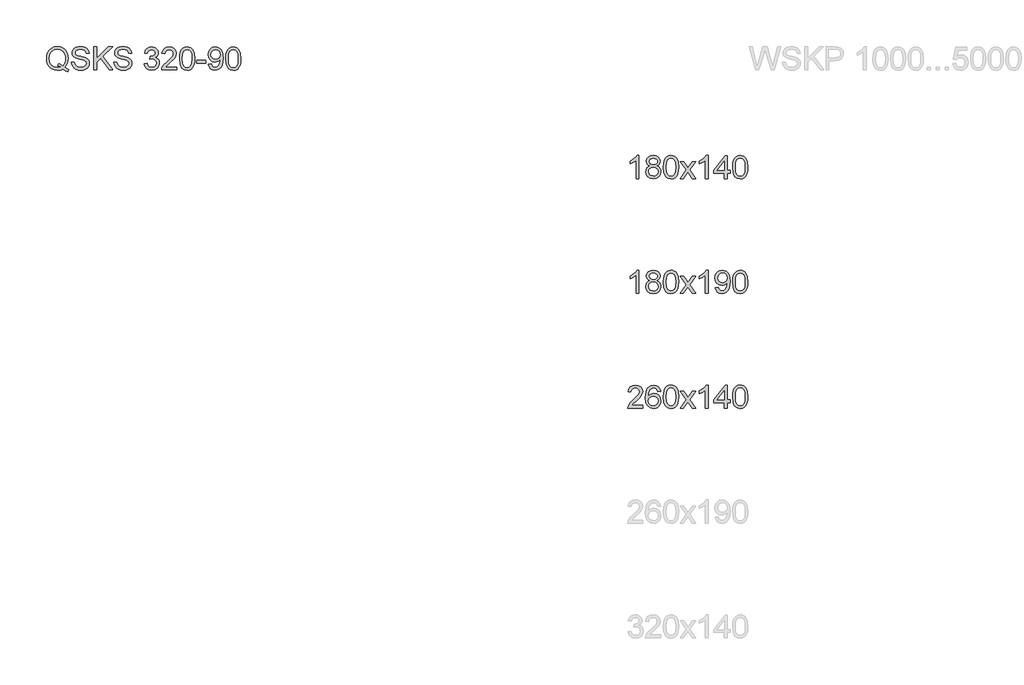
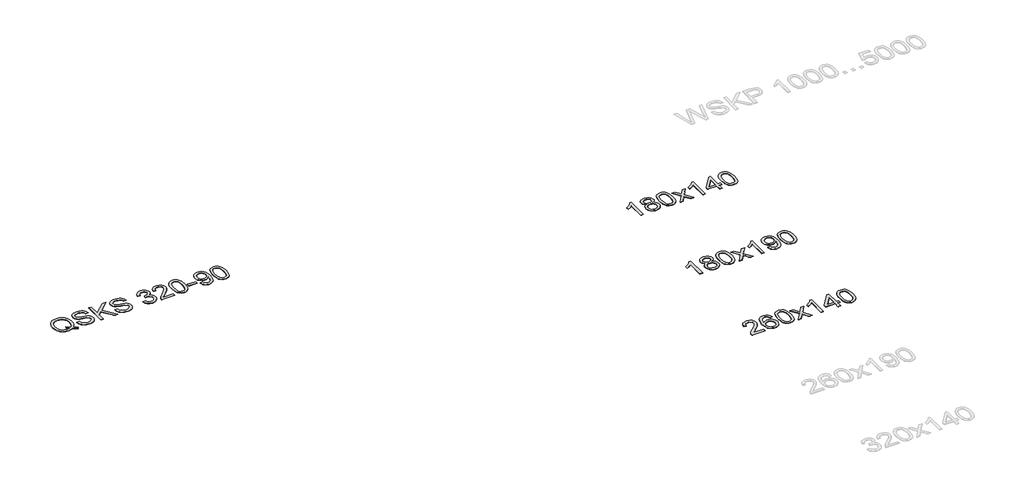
# One storey, part 15 of 17: 4 proxies.
"""IFC4 building model written with IfcOpenShell, lengths in millimetres."""

from ifc_helpers import new_model, si_unit, origin, origin_with_axes, place, context, project, spatial, polyline, outline, extrude, element, save

model = new_model("IFC4")

# Units and contexts
model_context = context("Model", 3, world=origin())
ifc_project = project(units=[si_unit("LENGTHUNIT", "METRE", prefix="MILLI")], contexts=[model_context])

# Site, building, storey
site = spatial("IfcSite", under=ifc_project)
building = spatial("IfcBuilding", under=site)
storey = spatial("IfcBuildingStorey", under=building, Name="Уровень 1", Elevation=0.0)

# Proxies
placement = place(None, origin())
element("IfcBuildingElementProxy", 1, Name="Текст модели 1", ObjectType="Текст модели 1", at=placement, inside=storey, context=model_context, shape_type="SweptSolid", body=[
    extrude(outline(polyline([(23854.9155502, 3515.8415377), (23886.0628925, 3494.8967894), (23879.2938637, 3476.5026897), (23858.5821074, 3486.1044098), (23837.9439275, 3499.9980864), (23814.7060481, 3491.4632242), (23789.1382495, 3488.6182701), (23763.4478235, 3491.8985512), (23740.2344696, 3501.7393946), (23720.7919061, 3517.5215321), (23706.4138515, 3538.6256959), (23697.5295013, 3563.8930576), (23694.5680512, 3592.164789), (23697.5233699, 3620.4610458), (23706.389326, 3646.0962895), (23720.7121984, 3667.5008902), (23740.0382658, 3683.1052182), (23763.1657806, 3692.6333619), (23788.8929948, 3695.8094097), (23814.8225441, 3692.5597855), (23838.0665548, 3682.8109126), (23857.3619655, 3667.212716), (23871.4457145, 3646.4151205), (23880.0541532, 3621.5217722), (23882.9236328, 3593.6363169), (23881.1823247, 3570.4474885), (23875.9584003, 3549.7357322), (23867.2150716, 3531.5255734), (23854.9155502, 3515.8415377)]), holes=[polyline([(23796.054431, 3549.2452229), (23817.1708575, 3541.2621836), (23834.2160566, 3530.16441), (23844.5382122, 3541.8140066), (23851.9111806, 3556.0633025), (23856.3349616, 3572.9122979), (23857.8095552, 3592.3609927), (23855.7248906, 3614.4645692), (23849.4708967, 3633.5883016), (23839.2008576, 3649.2478119), (23825.0680577, 3660.9587221), (23808.0289899, 3668.2611797), (23789.0401476, 3670.6953322), (23761.6697272, 3665.7718448), (23739.4006037, 3651.0013827), (23730.7737709, 3639.9419303), (23724.6117475, 3626.4575223), (23719.6821288, 3592.2138399), (23724.5565652, 3558.7059215), (23730.6496108, 3545.2583017), (23739.1798745, 3534.0149083), (23761.3815529, 3518.8029878), (23788.9910967, 3513.7323476), (23816.0181606, 3518.8826955), (23789.5797079, 3530.0172573), (23796.054431, 3549.2452229)])]), origin_with_axes(), (0.0, 0.0, 1.0), 2.0),
    extrude(outline(polyline([(23911.17697, 3560.821243), (23936.2910475, 3560.821243), (23944.3844514, 3535.68264), (23952.5146435, 3526.7921584), (23964.1519773, 3519.7901378), (23978.3767478, 3515.2467951), (23994.26925, 3513.7323476), (24020.511499, 3518.3186098), (24037.4585962, 3530.9246995), (24043.0258771, 3547.7736949), (24038.8565478, 3563.4454679), (24032.504452, 3569.6442795), (24021.7868232, 3574.8498097), (23985.2193529, 3584.4392671), (23945.8559794, 3596.8246276), (23933.3541229, 3605.2736507), (23924.4942982, 3615.5130329), (23919.2151916, 3627.322045), (23917.4554894, 3640.4799577), (23919.6321245, 3655.1891061), (23926.1620299, 3668.9049732), (23936.8735274, 3680.5300442), (23951.5949385, 3688.9668046), (23969.265537, 3694.0987585), (23988.8245964, 3695.8094097), (24010.0145994, 3694.0190507), (24028.5558519, 3688.6479736), (24043.7861665, 3679.806543), (24055.0433556, 3667.6051234), (24062.1680035, 3652.8040045), (24065.0006949, 3636.1634756), (24039.8866174, 3636.1634756), (24035.2758297, 3651.1485355), (24025.6618469, 3661.9642662), (24010.6399988, 3668.5125657), (23989.8056151, 3670.6953322), (23968.4807221, 3668.5370912), (23953.8512814, 3662.0623681), (23945.3899955, 3652.5342244), (23942.5695669, 3641.2157217), (23944.5683924, 3631.5649507), (23950.5648689, 3623.8026406), (23964.7405885, 3616.8619336), (23991.5714487, 3609.7740738), (24036.0115937, 3597.1679841), (24050.3283347, 3588.0567734), (24060.3163308, 3576.811847), (24066.1840487, 3563.5558325), (24068.1399546, 3548.411357), (24065.8897431, 3532.9296564), (24059.1391085, 3518.3676607), (24048.1639623, 3505.8351474), (24033.240216, 3496.4418938), (24015.293706, 3490.574176), (23995.2502686, 3488.6182701), (23970.6450945, 3490.7274602), (23950.3931907, 3497.0550305), (23934.2615652, 3507.6255065), (23922.0172261, 3522.4634136), (23914.1568142, 3540.5386823), (23911.17697, 3560.821243)])), origin_with_axes(), (0.0, 0.0, 1.0), 2.0),
    extrude(outline(polyline([(24105.8110709, 3491.7575298), (24105.8110709, 3692.6701501), (24130.9251484, 3692.6701501), (24130.9251484, 3594.32303), (24233.9321071, 3692.6701501), (24269.0525749, 3692.6701501), (24182.5757806, 3610.0683794), (24272.1918346, 3491.7575298), (24241.4859507, 3491.7575298), (24164.770292, 3593.0967567), (24130.9251484, 3560.821243), (24130.9251484, 3491.7575298), (24105.8110709, 3491.7575298)])), origin_with_axes(), (0.0, 0.0, 1.0), 2.0),
    extrude(outline(polyline([(24281.6096137, 3560.821243), (24306.7236912, 3560.821243), (24314.8170951, 3535.68264), (24322.9472872, 3526.7921584), (24334.584621, 3519.7901378), (24348.8093915, 3515.2467951), (24364.7018936, 3513.7323476), (24390.9441426, 3518.3186098), (24407.8912399, 3530.9246995), (24413.4585207, 3547.7736949), (24409.2891915, 3563.4454679), (24402.9370957, 3569.6442795), (24392.2194669, 3574.8498097), (24355.6519966, 3584.4392671), (24316.2886231, 3596.8246276), (24303.7867666, 3605.2736507), (24294.9269419, 3615.5130329), (24289.6478353, 3627.322045), (24287.8881331, 3640.4799577), (24290.0647682, 3655.1891061), (24296.5946736, 3668.9049732), (24307.306171, 3680.5300442), (24322.0275822, 3688.9668046), (24339.6981807, 3694.0987585), (24359.2572401, 3695.8094097), (24380.447243, 3694.0190507), (24398.9884956, 3688.6479736), (24414.2188102, 3679.806543), (24425.4759992, 3667.6051234), (24432.6006472, 3652.8040045), (24435.4333386, 3636.1634756), (24410.319261, 3636.1634756), (24405.7084734, 3651.1485355), (24396.0944906, 3661.9642662), (24381.0726424, 3668.5125657), (24360.2382588, 3670.6953322), (24338.9133658, 3668.5370912), (24324.2839251, 3662.0623681), (24315.8226392, 3652.5342244), (24313.0022106, 3641.2157217), (24315.0010361, 3631.5649507), (24320.9975126, 3623.8026406), (24335.1732322, 3616.8619336), (24362.0040923, 3609.7740738), (24406.4442374, 3597.1679841), (24420.7609783, 3588.0567734), (24430.7489745, 3576.811847), (24436.6166923, 3563.5558325), (24438.5725983, 3548.411357), (24436.3223867, 3532.9296564), (24429.5717521, 3518.3676607), (24418.5966059, 3505.8351474), (24403.6728597, 3496.4418938), (24385.7263497, 3490.574176), (24365.6829123, 3488.6182701), (24341.0777382, 3490.7274602), (24320.8258344, 3497.0550305), (24304.6942089, 3507.6255065), (24292.4498698, 3522.4634136), (24284.5894578, 3540.5386823), (24281.6096137, 3560.821243)])), origin_with_axes(), (0.0, 0.0, 1.0), 2.0),
    extrude(outline(polyline([(24545.3074278, 3545.1249445), (24570.4215053, 3548.2642042), (24576.0439685, 3532.4820666), (24584.2783938, 3521.8257515), (24595.5294515, 3515.7556986), (24610.2018118, 3513.7323476), (24627.4186891, 3516.515988), (24640.7114919, 3524.8669093), (24649.209566, 3537.3258462), (24652.0422573, 3552.4335335), (24649.2340914, 3566.7747999), (24640.8095938, 3578.4060023), (24628.0563513, 3586.1131301), (24612.2619509, 3588.6821727), (24594.6526661, 3585.9353205), (24597.4485693, 3611.0493981), (24601.4707457, 3610.7550925), (24616.5171193, 3612.5577142), (24629.9693376, 3617.9655796), (24639.4606931, 3627.1135785), (24642.6244783, 3640.1366011), (24640.3313472, 3650.9829886), (24633.4519539, 3659.7814997), (24622.9550543, 3665.6124293), (24609.8094043, 3667.5560725), (24596.6392289, 3665.5940352), (24585.8725491, 3659.7079233), (24578.0121372, 3649.8977367), (24573.560765, 3636.1634756), (24548.4466875, 3639.3027353), (24555.8411156, 3661.8539016), (24568.9990283, 3678.6906342), (24587.0007206, 3689.1752711), (24608.9264875, 3692.6701501), (24624.7147565, 3690.947236), (24639.2154384, 3685.778494), (24651.4413834, 3677.6237764), (24660.4054414, 3666.9429359), (24665.9052772, 3654.6372831), (24667.7385558, 3641.6081291), (24665.9972477, 3629.4680233), (24660.7733234, 3618.4560889), (24652.1403592, 3609.075098), (24640.1719316, 3601.8278227), (24655.8927556, 3595.4757269), (24667.5423521, 3584.6599963), (24674.7528392, 3569.9692419), (24677.1563349, 3551.9920751), (24672.3493435, 3527.5156597), (24657.9283693, 3507.0614208), (24636.1620179, 3493.2290577), (24609.318895, 3488.6182701), (24585.0386833, 3492.5546074), (24565.2711574, 3504.3636195), (24551.5246335, 3522.4266254), (24545.3074278, 3545.1249445)])), origin_with_axes(), (0.0, 0.0, 1.0), 2.0),
    extrude(outline(polyline([(24827.8408001, 3516.8716073), (24827.8408001, 3491.7575298), (24695.991893, 3491.7575298), (24698.6896943, 3509.072509), (24713.9445344, 3535.7316909), (24745.3861823, 3564.8434195), (24788.7472068, 3606.683865), (24796.8773988, 3621.1048393), (24799.5874629, 3635.133406), (24797.030683, 3647.7088389), (24789.3603434, 3658.1628189), (24777.5697255, 3665.2077591), (24762.6521106, 3667.5560725), (24746.9864689, 3665.2629414), (24734.8157063, 3658.3835481), (24726.9614257, 3647.4574528), (24724.2452303, 3633.0242159), (24699.1311527, 3636.1634756), (24705.2195997, 3660.45595), (24718.3836438, 3678.2001249), (24737.9365719, 3689.0526438), (24763.1916708, 3692.6701501), (24788.6307108, 3688.6479736), (24808.1468506, 3676.5814441), (24820.562868, 3658.5552264), (24824.7015404, 3636.6539849), (24820.2379055, 3612.8397571), (24805.3999984, 3588.2161889), (24769.4211393, 3553.8069596), (24740.5301399, 3529.6493753), (24729.1993745, 3516.8716073), (24827.8408001, 3516.8716073)])), origin_with_axes(), (0.0, 0.0, 1.0), 2.0),
    extrude(outline(polyline([(24852.9548776, 3590.5951591), (24854.800419, 3622.7541769), (24860.337043, 3648.4016833), (24869.5095674, 3667.9300859), (24882.2628099, 3681.7317921), (24898.688741, 3689.9355606), (24918.8793312, 3692.6701501), (24934.3549004, 3691.0514693), (24948.2117889, 3686.1954269), (24959.8000718, 3678.2920954), (24968.4698241, 3667.531547), (24980.242048, 3637.8066818), (24984.8037847, 3590.5951591), (24982.9766375, 3558.6200824), (24977.4951957, 3533.0338896), (24968.3778536, 3513.4870929), (24955.6430052, 3499.6302044), (24939.1802859, 3491.3712537), (24918.8793312, 3488.6182701), (24892.784235, 3493.400736), (24872.9676582, 3507.7481338), (24864.2120667, 3522.8772809), (24857.9580728, 3541.7281674), (24852.9548776, 3590.5951591)]), holes=[polyline([(24878.0689552, 3590.6442101), (24881.0120111, 3551.1398151), (24889.841179, 3528.2759491), (24902.986829, 3517.368248), (24918.8793312, 3513.7323476), (24934.7718334, 3517.3805107), (24947.9174833, 3528.3250001), (24956.7466512, 3551.2011288), (24959.6897072, 3590.6442101), (24956.8447531, 3629.2595568), (24948.3098908, 3652.3012324), (24935.1887663, 3663.7423625), (24918.5850256, 3667.5560725), (24902.8642017, 3664.1960836), (24890.2335865, 3654.116117), (24881.110113, 3629.6397015), (24878.0689552, 3590.6442101)])]), origin_with_axes(), (0.0, 0.0, 1.0), 2.0),
    extrude(outline(polyline([(25000.5000832, 3551.4034639), (25000.5000832, 3576.5175414), (25078.9815755, 3576.5175414), (25078.9815755, 3551.4034639), (25000.5000832, 3551.4034639)])), origin_with_axes(), (0.0, 0.0, 1.0), 2.0),
    extrude(outline(polyline([(25104.095653, 3541.9856848), (25129.2097306, 3545.1249445), (25133.5016872, 3530.8695172), (25140.4914451, 3521.1635639), (25150.007326, 3515.5901517), (25161.8776517, 3513.7323476), (25182.2092633, 3518.5148135), (25195.9925754, 3531.2925815), (25204.2086066, 3553.1202465), (25207.8383757, 3582.2565006), (25207.6912229, 3587.1615938), (25198.9908137, 3576.5420669), (25187.6048659, 3568.129832), (25174.3549827, 3562.6483902), (25160.0627672, 3560.821243), (25137.162113, 3565.2848779), (25118.0996943, 3578.6757825), (25105.2422186, 3599.3630133), (25100.9563933, 3625.7156269), (25105.450685, 3652.9388946), (25118.9335602, 3674.2760503), (25139.185464, 3688.0716251), (25163.9868418, 3692.6701501), (25182.7181668, 3690.0459252), (25199.7694972, 3682.1732505), (25214.0310559, 3669.4445334), (25224.3930654, 3652.2521815), (25230.7022417, 3628.4870046), (25232.8053004, 3596.0398127), (25230.708373, 3561.6367147), (25224.4175909, 3535.0449779), (25213.9881363, 3515.0628541), (25199.4751916, 3500.4885958), (25181.5041562, 3491.5858515), (25160.7004293, 3488.6182701), (25139.2283836, 3492.1192804), (25122.0973453, 3502.6223113), (25110.116655, 3519.4651754), (25104.095653, 3541.9856848)]), holes=[polyline([(25207.6912229, 3626.3042381), (25204.9811588, 3643.3249118), (25196.8509667, 3656.4215108), (25184.2326143, 3664.7724321), (25168.0580692, 3667.5560725), (25151.2826503, 3664.5578343), (25137.8426947, 3655.5631195), (25129.0135268, 3641.7982015), (25126.0704709, 3624.4893536), (25128.8541113, 3608.9708648), (25137.2050326, 3596.6529493), (25150.3138943, 3588.6147277), (25167.3713562, 3585.9353205), (25183.4171425, 3588.6147277), (25196.3359319, 3596.6529493), (25204.8524001, 3609.4245859), (25207.6912229, 3626.3042381)])]), origin_with_axes(), (0.0, 0.0, 1.0), 2.0),
    extrude(outline(polyline([(25254.7801182, 3590.5951591), (25256.6256596, 3622.7541769), (25262.1622836, 3648.4016833), (25271.334808, 3667.9300859), (25284.0880505, 3681.7317921), (25300.5139816, 3689.9355606), (25320.7045718, 3692.6701501), (25336.180141, 3691.0514693), (25350.0370295, 3686.1954269), (25361.6253124, 3678.2920954), (25370.2950647, 3667.531547), (25382.0672886, 3637.8066818), (25386.6290253, 3590.5951591), (25384.8018781, 3558.6200824), (25379.3204363, 3533.0338896), (25370.2030942, 3513.4870929), (25357.4682458, 3499.6302044), (25341.0055265, 3491.3712537), (25320.7045718, 3488.6182701), (25294.6094756, 3493.400736), (25274.7928988, 3507.7481338), (25266.0373073, 3522.8772809), (25259.7833134, 3541.7281674), (25254.7801182, 3590.5951591)]), holes=[polyline([(25279.8941958, 3590.6442101), (25282.8372517, 3551.1398151), (25291.6664196, 3528.2759491), (25304.8120696, 3517.368248), (25320.7045718, 3513.7323476), (25336.597074, 3517.3805107), (25349.7427239, 3528.3250001), (25358.5718918, 3551.2011288), (25361.5149478, 3590.6442101), (25358.6699937, 3629.2595568), (25350.1351314, 3652.3012324), (25337.0140069, 3663.7423625), (25320.4102662, 3667.5560725), (25304.6894423, 3664.1960836), (25292.0588271, 3654.116117), (25282.9353536, 3629.6397015), (25279.8941958, 3590.6442101)])]), origin_with_axes(), (0.0, 0.0, 1.0), 2.0),
])
element("IfcBuildingElementProxy", 2, Name="Текст модели 1", ObjectType="Текст модели 1", at=placement, inside=storey, context=model_context, shape_type="SweptSolid", body=[
    extrude(outline(polyline([(28852.7463706, 2546.7575298), (28827.632293, 2546.7575298), (28827.632293, 2703.3281069), (28803.8425907, 2686.3810097), (28777.4041379, 2673.7013436), (28777.4041379, 2697.441995), (28814.2168629, 2720.9373917), (28827.6874753, 2734.5122374), (28836.5595628, 2747.6701501), (28852.7463706, 2747.6701501), (28852.7463706, 2546.7575298)])), origin_with_axes(), (0.0, 0.0, 1.0), 2.0),
    extrude(outline(polyline([(28948.9843005, 2657.4164339), (28935.5382136, 2664.0383098), (28926.1020404, 2673.0146305), (28920.5286282, 2684.161455), (28918.6708241, 2697.2948422), (28922.717526, 2716.927478), (28934.8576319, 2733.151074), (28953.7299782, 2744.040381), (28977.9734017, 2747.6701501), (29002.363978, 2743.9545419), (29021.481579, 2732.8077174), (29033.842414, 2716.3266041), (29037.9626924, 2696.6081291), (29036.1294138, 2683.8978062), (29030.629578, 2672.9410541), (29021.4018712, 2664.0199157), (29008.38498, 2657.4164339), (29023.8421551, 2649.4517887), (29035.0932128, 2637.7224844), (29041.954212, 2622.7926068), (29044.2412118, 2605.2262415), (29039.7040005, 2581.21581), (29026.0923667, 2561.3747077), (29005.074042, 2548.0573795), (28978.3167582, 2543.6182701), (28951.5594745, 2548.0757736), (28930.5411498, 2561.4482841), (28916.929516, 2581.4794587), (28912.3923047, 2605.9129546), (28914.7712749, 2624.1599015), (28921.9081856, 2639.1694869), (28933.4351548, 2650.426676), (28948.9843005, 2657.4164339)]), holes=[polyline([(28943.7849016, 2696.5590782), (28946.0105877, 2685.5961947), (28952.6876459, 2676.8406032), (28963.6198725, 2671.1016441), (28978.6110638, 2669.1886577), (28993.2527672, 2671.0893814), (29004.019447, 2676.7915523), (29010.6413229, 2685.2528382), (29012.8486149, 2695.4309067), (29010.5677465, 2705.9952514), (29003.7251414, 2714.7324487), (28992.8113088, 2720.6001666), (28978.3167582, 2722.5560725), (28963.7302371, 2720.6430861), (28952.8347987, 2714.904127), (28946.0473759, 2706.4918921), (28943.7849016, 2696.5590782)]), polyline([(28937.5063822, 2606.7958714), (28941.700237, 2587.8867368), (28947.5066411, 2579.7749388), (28956.5381441, 2573.7355427), (28978.512962, 2568.7323476), (28995.607212, 2571.3627039), (29008.4340309, 2579.2537727), (29016.4538584, 2591.2038061), (29019.1271342, 2606.0110564), (29016.3680193, 2621.0696928), (29008.0906744, 2633.283375), (28994.9695499, 2641.3767789), (28977.6790961, 2644.0745802), (28960.8239694, 2641.4135671), (28948.1259092, 2633.4305278), (28940.161264, 2621.4498375), (28937.5063822, 2606.7958714)])]), origin_with_axes(), (0.0, 0.0, 1.0), 2.0),
    extrude(outline(polyline([(29066.2160296, 2645.5951591), (29068.061571, 2677.7541769), (29073.598195, 2703.4016833), (29082.7707194, 2722.9300859), (29095.5239619, 2736.7317921), (29111.949893, 2744.9355606), (29132.1404832, 2747.6701501), (29147.6160524, 2746.0514693), (29161.4729409, 2741.1954269), (29173.0612238, 2733.2920954), (29181.7309761, 2722.531547), (29193.5032, 2692.8066818), (29198.0649367, 2645.5951591), (29196.2377894, 2613.6200824), (29190.7563477, 2588.0338896), (29181.6390056, 2568.4870929), (29168.9041572, 2554.6302044), (29152.4414379, 2546.3712537), (29132.1404832, 2543.6182701), (29106.045387, 2548.400736), (29086.2288102, 2562.7481338), (29077.4732187, 2577.8772809), (29071.2192248, 2596.7281674), (29066.2160296, 2645.5951591)]), holes=[polyline([(29091.3301072, 2645.6442101), (29094.2731631, 2606.1398151), (29103.102331, 2583.2759491), (29116.247981, 2572.368248), (29132.1404832, 2568.7323476), (29148.0329853, 2572.3805107), (29161.1786353, 2583.3250001), (29170.0078032, 2606.2011288), (29172.9508592, 2645.6442101), (29170.1059051, 2684.2595568), (29161.5710428, 2707.3012324), (29148.4499183, 2718.7423625), (29131.8461776, 2722.5560725), (29116.1253536, 2719.1960836), (29103.4947385, 2709.116117), (29094.371265, 2684.6397015), (29091.3301072, 2645.6442101)])]), origin_with_axes(), (0.0, 0.0, 1.0), 2.0),
    extrude(outline(polyline([(29210.6219755, 2546.7575298), (29264.2836958, 2620.92254), (29213.7612352, 2694.3027353), (29243.9766097, 2694.3027353), (29268.3549232, 2658.9860637), (29279.7347396, 2642.3087466), (29289.5939771, 2655.9449059), (29317.356805, 2694.3027353), (29347.5721795, 2694.3027353), (29294.4990704, 2620.92254), (29345.6101422, 2546.7575298), (29315.3947677, 2546.7575298), (29284.6398329, 2591.3448276), (29278.9989756, 2599.4872824), (29240.83735, 2546.7575298), (29210.6219755, 2546.7575298)])), origin_with_axes(), (0.0, 0.0, 1.0), 2.0),
    extrude(outline(polyline([(29455.4842314, 2546.7575298), (29430.3701539, 2546.7575298), (29430.3701539, 2703.3281069), (29406.5804516, 2686.3810097), (29380.1419988, 2673.7013436), (29380.1419988, 2697.441995), (29416.9547238, 2720.9373917), (29430.4253362, 2734.5122374), (29439.2974237, 2747.6701501), (29455.4842314, 2747.6701501), (29455.4842314, 2546.7575298)])), origin_with_axes(), (0.0, 0.0, 1.0), 2.0),
    extrude(outline(polyline([(29596.7509176, 2546.7575298), (29596.7509176, 2593.8464251), (29505.7123865, 2593.8464251), (29505.7123865, 2618.9605027), (29603.029437, 2744.5308904), (29621.8649951, 2744.5308904), (29621.8649951, 2618.9605027), (29646.9790727, 2618.9605027), (29646.9790727, 2593.8464251), (29621.8649951, 2593.8464251), (29621.8649951, 2546.7575298), (29596.7509176, 2546.7575298)]), holes=[polyline([(29596.7509176, 2618.9605027), (29596.7509176, 2696.5590782), (29536.6144741, 2618.9605027), (29596.7509176, 2618.9605027)])]), origin_with_axes(), (0.0, 0.0, 1.0), 2.0),
    extrude(outline(polyline([(29668.9538905, 2645.5951591), (29670.7994319, 2677.7541769), (29676.3360559, 2703.4016833), (29685.5085803, 2722.9300859), (29698.2618228, 2736.7317921), (29714.6877539, 2744.9355606), (29734.8783441, 2747.6701501), (29750.3539133, 2746.0514693), (29764.2108018, 2741.1954269), (29775.7990847, 2733.2920954), (29784.468837, 2722.531547), (29796.2410608, 2692.8066818), (29800.8027976, 2645.5951591), (29798.9756503, 2613.6200824), (29793.4942086, 2588.0338896), (29784.3768665, 2568.4870929), (29771.6420181, 2554.6302044), (29755.1792988, 2546.3712537), (29734.8783441, 2543.6182701), (29708.7832479, 2548.400736), (29688.9666711, 2562.7481338), (29680.2110796, 2577.8772809), (29673.9570857, 2596.7281674), (29668.9538905, 2645.5951591)]), holes=[polyline([(29694.0679681, 2645.6442101), (29697.011024, 2606.1398151), (29705.8401919, 2583.2759491), (29718.9858419, 2572.368248), (29734.8783441, 2568.7323476), (29750.7708462, 2572.3805107), (29763.9164962, 2583.3250001), (29772.7456641, 2606.2011288), (29775.6887201, 2645.6442101), (29772.843766, 2684.2595568), (29764.3089037, 2707.3012324), (29751.1877792, 2718.7423625), (29734.5840385, 2722.5560725), (29718.8632145, 2719.1960836), (29706.2325994, 2709.116117), (29697.1091259, 2684.6397015), (29694.0679681, 2645.6442101)])]), origin_with_axes(), (0.0, 0.0, 1.0), 2.0),
])
element("IfcBuildingElementProxy", 3, Name="Текст модели 1", ObjectType="Текст модели 1", at=placement, inside=storey, context=model_context, shape_type="SweptSolid", body=[
    extrude(outline(polyline([(28852.7463706, 1546.7575298), (28827.632293, 1546.7575298), (28827.632293, 1703.3281069), (28803.8425907, 1686.3810097), (28777.4041379, 1673.7013436), (28777.4041379, 1697.441995), (28814.2168629, 1720.9373917), (28827.6874753, 1734.5122374), (28836.5595628, 1747.6701501), (28852.7463706, 1747.6701501), (28852.7463706, 1546.7575298)])), origin_with_axes(), (0.0, 0.0, 1.0), 2.0),
    extrude(outline(polyline([(28948.9843005, 1657.4164339), (28935.5382136, 1664.0383098), (28926.1020404, 1673.0146305), (28920.5286282, 1684.161455), (28918.6708241, 1697.2948422), (28922.717526, 1716.927478), (28934.8576319, 1733.151074), (28953.7299782, 1744.040381), (28977.9734017, 1747.6701501), (29002.363978, 1743.9545419), (29021.481579, 1732.8077174), (29033.842414, 1716.3266041), (29037.9626924, 1696.6081291), (29036.1294138, 1683.8978062), (29030.629578, 1672.9410541), (29021.4018712, 1664.0199157), (29008.38498, 1657.4164339), (29023.8421551, 1649.4517887), (29035.0932128, 1637.7224844), (29041.954212, 1622.7926068), (29044.2412118, 1605.2262415), (29039.7040005, 1581.21581), (29026.0923667, 1561.3747077), (29005.074042, 1548.0573795), (28978.3167582, 1543.6182701), (28951.5594745, 1548.0757736), (28930.5411498, 1561.4482841), (28916.929516, 1581.4794587), (28912.3923047, 1605.9129546), (28914.7712749, 1624.1599015), (28921.9081856, 1639.1694869), (28933.4351548, 1650.426676), (28948.9843005, 1657.4164339)]), holes=[polyline([(28943.7849016, 1696.5590782), (28946.0105877, 1685.5961947), (28952.6876459, 1676.8406032), (28963.6198725, 1671.1016441), (28978.6110638, 1669.1886577), (28993.2527672, 1671.0893814), (29004.019447, 1676.7915523), (29010.6413229, 1685.2528382), (29012.8486149, 1695.4309067), (29010.5677465, 1705.9952514), (29003.7251414, 1714.7324487), (28992.8113088, 1720.6001666), (28978.3167582, 1722.5560725), (28963.7302371, 1720.6430861), (28952.8347987, 1714.904127), (28946.0473759, 1706.4918921), (28943.7849016, 1696.5590782)]), polyline([(28937.5063822, 1606.7958714), (28941.700237, 1587.8867368), (28947.5066411, 1579.7749388), (28956.5381441, 1573.7355427), (28978.512962, 1568.7323476), (28995.607212, 1571.3627039), (29008.4340309, 1579.2537727), (29016.4538584, 1591.2038061), (29019.1271342, 1606.0110564), (29016.3680193, 1621.0696928), (29008.0906744, 1633.283375), (28994.9695499, 1641.3767789), (28977.6790961, 1644.0745802), (28960.8239694, 1641.4135671), (28948.1259092, 1633.4305278), (28940.161264, 1621.4498375), (28937.5063822, 1606.7958714)])]), origin_with_axes(), (0.0, 0.0, 1.0), 2.0),
    extrude(outline(polyline([(29066.2160296, 1645.5951591), (29068.061571, 1677.7541769), (29073.598195, 1703.4016833), (29082.7707194, 1722.9300859), (29095.5239619, 1736.7317921), (29111.949893, 1744.9355606), (29132.1404832, 1747.6701501), (29147.6160524, 1746.0514693), (29161.4729409, 1741.1954269), (29173.0612238, 1733.2920954), (29181.7309761, 1722.531547), (29193.5032, 1692.8066818), (29198.0649367, 1645.5951591), (29196.2377894, 1613.6200824), (29190.7563477, 1588.0338896), (29181.6390056, 1568.4870929), (29168.9041572, 1554.6302044), (29152.4414379, 1546.3712537), (29132.1404832, 1543.6182701), (29106.045387, 1548.400736), (29086.2288102, 1562.7481338), (29077.4732187, 1577.8772809), (29071.2192248, 1596.7281674), (29066.2160296, 1645.5951591)]), holes=[polyline([(29091.3301072, 1645.6442101), (29094.2731631, 1606.1398151), (29103.102331, 1583.2759491), (29116.247981, 1572.368248), (29132.1404832, 1568.7323476), (29148.0329853, 1572.3805107), (29161.1786353, 1583.3250001), (29170.0078032, 1606.2011288), (29172.9508592, 1645.6442101), (29170.1059051, 1684.2595568), (29161.5710428, 1707.3012324), (29148.4499183, 1718.7423625), (29131.8461776, 1722.5560725), (29116.1253536, 1719.1960836), (29103.4947385, 1709.116117), (29094.371265, 1684.6397015), (29091.3301072, 1645.6442101)])]), origin_with_axes(), (0.0, 0.0, 1.0), 2.0),
    extrude(outline(polyline([(29210.6219755, 1546.7575298), (29264.2836958, 1620.92254), (29213.7612352, 1694.3027353), (29243.9766097, 1694.3027353), (29268.3549232, 1658.9860637), (29279.7347396, 1642.3087466), (29289.5939771, 1655.9449059), (29317.356805, 1694.3027353), (29347.5721795, 1694.3027353), (29294.4990704, 1620.92254), (29345.6101422, 1546.7575298), (29315.3947677, 1546.7575298), (29284.6398329, 1591.3448276), (29278.9989756, 1599.4872824), (29240.83735, 1546.7575298), (29210.6219755, 1546.7575298)])), origin_with_axes(), (0.0, 0.0, 1.0), 2.0),
    extrude(outline(polyline([(29455.4842314, 1546.7575298), (29430.3701539, 1546.7575298), (29430.3701539, 1703.3281069), (29406.5804516, 1686.3810097), (29380.1419988, 1673.7013436), (29380.1419988, 1697.441995), (29416.9547238, 1720.9373917), (29430.4253362, 1734.5122374), (29439.2974237, 1747.6701501), (29455.4842314, 1747.6701501), (29455.4842314, 1546.7575298)])), origin_with_axes(), (0.0, 0.0, 1.0), 2.0),
    extrude(outline(polyline([(29518.2694253, 1596.9856848), (29543.3835028, 1600.1249445), (29547.6754594, 1585.8695172), (29554.6652173, 1576.1635639), (29564.1810983, 1570.5901517), (29576.051424, 1568.7323476), (29596.3830356, 1573.5148135), (29610.1663477, 1586.2925815), (29618.3823789, 1608.1202465), (29622.0121479, 1637.2565006), (29621.8649951, 1642.1615938), (29613.1645859, 1631.5420669), (29601.7786382, 1623.129832), (29588.528755, 1617.6483902), (29574.2365395, 1615.821243), (29551.3358853, 1620.2848779), (29532.2734666, 1633.6757825), (29519.4159908, 1654.3630133), (29515.1301656, 1680.7156269), (29519.6244573, 1707.9388946), (29533.1073324, 1729.2760503), (29553.3592363, 1743.0716251), (29578.1606141, 1747.6701501), (29596.891939, 1745.0459252), (29613.9432695, 1737.1732505), (29628.2048282, 1724.4445334), (29638.5668377, 1707.2521815), (29644.8760139, 1683.4870046), (29646.9790727, 1651.0398127), (29644.8821453, 1616.6367147), (29638.5913632, 1590.0449779), (29628.1619086, 1570.0628541), (29613.6489639, 1555.4885958), (29595.6779284, 1546.5858515), (29574.8742016, 1543.6182701), (29553.4021558, 1547.1192804), (29536.2711176, 1557.6223113), (29524.2904273, 1574.4651754), (29518.2694253, 1596.9856848)]), holes=[polyline([(29621.8649951, 1681.3042381), (29619.1549311, 1698.3249118), (29611.024739, 1711.4215108), (29598.4063866, 1719.7724321), (29582.2318415, 1722.5560725), (29565.4564225, 1719.5578343), (29552.016467, 1710.5631195), (29543.1872991, 1696.7982015), (29540.2442431, 1679.4893536), (29543.0278836, 1663.9708648), (29551.3788049, 1651.6529493), (29564.4876666, 1643.6147277), (29581.5451285, 1640.9353205), (29597.5909148, 1643.6147277), (29610.5097042, 1651.6529493), (29619.0261724, 1664.4245859), (29621.8649951, 1681.3042381)])]), origin_with_axes(), (0.0, 0.0, 1.0), 2.0),
    extrude(outline(polyline([(29668.9538905, 1645.5951591), (29670.7994319, 1677.7541769), (29676.3360559, 1703.4016833), (29685.5085803, 1722.9300859), (29698.2618228, 1736.7317921), (29714.6877539, 1744.9355606), (29734.8783441, 1747.6701501), (29750.3539133, 1746.0514693), (29764.2108018, 1741.1954269), (29775.7990847, 1733.2920954), (29784.468837, 1722.531547), (29796.2410608, 1692.8066818), (29800.8027976, 1645.5951591), (29798.9756503, 1613.6200824), (29793.4942086, 1588.0338896), (29784.3768665, 1568.4870929), (29771.6420181, 1554.6302044), (29755.1792988, 1546.3712537), (29734.8783441, 1543.6182701), (29708.7832479, 1548.400736), (29688.9666711, 1562.7481338), (29680.2110796, 1577.8772809), (29673.9570857, 1596.7281674), (29668.9538905, 1645.5951591)]), holes=[polyline([(29694.0679681, 1645.6442101), (29697.011024, 1606.1398151), (29705.8401919, 1583.2759491), (29718.9858419, 1572.368248), (29734.8783441, 1568.7323476), (29750.7708462, 1572.3805107), (29763.9164962, 1583.3250001), (29772.7456641, 1606.2011288), (29775.6887201, 1645.6442101), (29772.843766, 1684.2595568), (29764.3089037, 1707.3012324), (29751.1877792, 1718.7423625), (29734.5840385, 1722.5560725), (29718.8632145, 1719.1960836), (29706.2325994, 1709.116117), (29697.1091259, 1684.6397015), (29694.0679681, 1645.6442101)])]), origin_with_axes(), (0.0, 0.0, 1.0), 2.0),
])
element("IfcBuildingElementProxy", 4, Name="Текст модели 1", ObjectType="Текст модели 1", at=placement, inside=storey, context=model_context, shape_type="SweptSolid", body=[
    extrude(outline(polyline([(28887.2782272, 571.8716073), (28887.2782272, 546.7575298), (28755.4293201, 546.7575298), (28758.1271214, 564.072509), (28773.3819615, 590.7316909), (28804.8236093, 619.8434195), (28848.1846338, 661.683865), (28856.3148259, 676.1048393), (28859.0248899, 690.133406), (28856.4681101, 702.7088389), (28848.7977705, 713.1628189), (28837.0071525, 720.2077591), (28822.0895376, 722.5560725), (28806.423896, 720.2629414), (28794.2531333, 713.3835481), (28786.3988527, 702.4574528), (28783.6826573, 688.0242159), (28758.5685798, 691.1634756), (28764.6570268, 715.45595), (28777.8210709, 733.2001249), (28797.3739989, 744.0526438), (28822.6290979, 747.6701501), (28848.0681378, 743.6479736), (28867.5842777, 731.5814441), (28880.000295, 713.5552264), (28884.1389675, 691.6539849), (28879.6753326, 667.8397571), (28864.8374255, 643.2161889), (28828.8585663, 608.8069596), (28799.967567, 584.6493753), (28788.6368015, 571.8716073), (28887.2782272, 571.8716073)])), origin_with_axes(), (0.0, 0.0, 1.0), 2.0),
    extrude(outline(polyline([(29041.1019521, 694.3027353), (29015.9878745, 691.1634756), (29006.4719936, 712.1082239), (28995.0799145, 719.9441103), (28981.3088651, 722.5560725), (28958.6473342, 716.4737569), (28949.2111611, 706.8659054), (28941.5040333, 693.6405477), (28936.298503, 674.9337482), (28934.3671225, 648.8815716), (28944.4409578, 660.6354014), (28956.5136187, 668.9188776), (28969.9106546, 673.8301023), (28983.9576155, 675.4671771), (29007.1587067, 670.9912795), (29026.6319269, 657.5635867), (29039.8388906, 637.0480341), (29044.2412118, 611.3085572), (29042.1688099, 593.325259), (29035.9516042, 576.6540732), (29026.1046294, 562.5151419), (29013.1429204, 552.1286069), (28997.6550885, 545.7458543), (28980.2297446, 543.6182701), (28951.7372841, 549.2591273), (28929.0450964, 566.1816991), (28920.3860739, 579.2905609), (28914.2010578, 596.0537171), (28909.253045, 640.5429131), (28914.7467495, 690.5626017), (28921.61388, 709.6403488), (28931.2278629, 724.7633645), (28941.6481204, 734.7850832), (28953.7299782, 741.9434537), (28982.878495, 747.6701501), (29004.9146265, 744.1262202), (29022.5606995, 733.4944305), (29034.9215346, 716.6086469), (29041.1019521, 694.3027353)]), holes=[polyline([(28934.3671225, 611.7009646), (28940.1796581, 589.946876), (28955.6307019, 574.1524757), (28978.2677073, 568.7323476), (28994.8407912, 571.5405135), (29007.8699452, 579.9650112), (29016.312837, 593.208763), (29019.1271342, 610.4746913), (29016.3496252, 627.0477752), (29008.017098, 639.6845217), (28994.7672148, 647.6859551), (28977.2376377, 650.3530996), (28960.6890793, 647.6859551), (28946.8505849, 639.6845217), (28937.4879881, 627.3543435), (28934.3671225, 611.7009646)])]), origin_with_axes(), (0.0, 0.0, 1.0), 2.0),
    extrude(outline(polyline([(29066.2160296, 645.5951591), (29068.061571, 677.7541769), (29073.598195, 703.4016833), (29082.7707194, 722.9300859), (29095.5239619, 736.7317921), (29111.949893, 744.9355606), (29132.1404832, 747.6701501), (29147.6160524, 746.0514693), (29161.4729409, 741.1954269), (29173.0612238, 733.2920954), (29181.7309761, 722.531547), (29193.5032, 692.8066818), (29198.0649367, 645.5951591), (29196.2377894, 613.6200824), (29190.7563477, 588.0338896), (29181.6390056, 568.4870929), (29168.9041572, 554.6302044), (29152.4414379, 546.3712537), (29132.1404832, 543.6182701), (29106.045387, 548.400736), (29086.2288102, 562.7481338), (29077.4732187, 577.8772809), (29071.2192248, 596.7281674), (29066.2160296, 645.5951591)]), holes=[polyline([(29091.3301072, 645.6442101), (29094.2731631, 606.1398151), (29103.102331, 583.2759491), (29116.247981, 572.368248), (29132.1404832, 568.7323476), (29148.0329853, 572.3805107), (29161.1786353, 583.3250001), (29170.0078032, 606.2011288), (29172.9508592, 645.6442101), (29170.1059051, 684.2595568), (29161.5710428, 707.3012324), (29148.4499183, 718.7423625), (29131.8461776, 722.5560725), (29116.1253536, 719.1960836), (29103.4947385, 709.116117), (29094.371265, 684.6397015), (29091.3301072, 645.6442101)])]), origin_with_axes(), (0.0, 0.0, 1.0), 2.0),
    extrude(outline(polyline([(29210.6219755, 546.7575298), (29264.2836958, 620.92254), (29213.7612352, 694.3027353), (29243.9766097, 694.3027353), (29268.3549232, 658.9860637), (29279.7347396, 642.3087466), (29289.5939771, 655.9449059), (29317.356805, 694.3027353), (29347.5721795, 694.3027353), (29294.4990704, 620.92254), (29345.6101422, 546.7575298), (29315.3947677, 546.7575298), (29284.6398329, 591.3448276), (29278.9989756, 599.4872824), (29240.83735, 546.7575298), (29210.6219755, 546.7575298)])), origin_with_axes(), (0.0, 0.0, 1.0), 2.0),
    extrude(outline(polyline([(29455.4842314, 546.7575298), (29430.3701539, 546.7575298), (29430.3701539, 703.3281069), (29406.5804516, 686.3810097), (29380.1419988, 673.7013436), (29380.1419988, 697.441995), (29416.9547238, 720.9373917), (29430.4253362, 734.5122374), (29439.2974237, 747.6701501), (29455.4842314, 747.6701501), (29455.4842314, 546.7575298)])), origin_with_axes(), (0.0, 0.0, 1.0), 2.0),
    extrude(outline(polyline([(29596.7509176, 546.7575298), (29596.7509176, 593.8464251), (29505.7123865, 593.8464251), (29505.7123865, 618.9605027), (29603.029437, 744.5308904), (29621.8649951, 744.5308904), (29621.8649951, 618.9605027), (29646.9790727, 618.9605027), (29646.9790727, 593.8464251), (29621.8649951, 593.8464251), (29621.8649951, 546.7575298), (29596.7509176, 546.7575298)]), holes=[polyline([(29596.7509176, 618.9605027), (29596.7509176, 696.5590782), (29536.6144741, 618.9605027), (29596.7509176, 618.9605027)])]), origin_with_axes(), (0.0, 0.0, 1.0), 2.0),
    extrude(outline(polyline([(29668.9538905, 645.5951591), (29670.7994319, 677.7541769), (29676.3360559, 703.4016833), (29685.5085803, 722.9300859), (29698.2618228, 736.7317921), (29714.6877539, 744.9355606), (29734.8783441, 747.6701501), (29750.3539133, 746.0514693), (29764.2108018, 741.1954269), (29775.7990847, 733.2920954), (29784.468837, 722.531547), (29796.2410608, 692.8066818), (29800.8027976, 645.5951591), (29798.9756503, 613.6200824), (29793.4942086, 588.0338896), (29784.3768665, 568.4870929), (29771.6420181, 554.6302044), (29755.1792988, 546.3712537), (29734.8783441, 543.6182701), (29708.7832479, 548.400736), (29688.9666711, 562.7481338), (29680.2110796, 577.8772809), (29673.9570857, 596.7281674), (29668.9538905, 645.5951591)]), holes=[polyline([(29694.0679681, 645.6442101), (29697.011024, 606.1398151), (29705.8401919, 583.2759491), (29718.9858419, 572.368248), (29734.8783441, 568.7323476), (29750.7708462, 572.3805107), (29763.9164962, 583.3250001), (29772.7456641, 606.2011288), (29775.6887201, 645.6442101), (29772.843766, 684.2595568), (29764.3089037, 707.3012324), (29751.1877792, 718.7423625), (29734.5840385, 722.5560725), (29718.8632145, 719.1960836), (29706.2325994, 709.116117), (29697.1091259, 684.6397015), (29694.0679681, 645.6442101)])]), origin_with_axes(), (0.0, 0.0, 1.0), 2.0),
])

save(model, "model.ifc")
